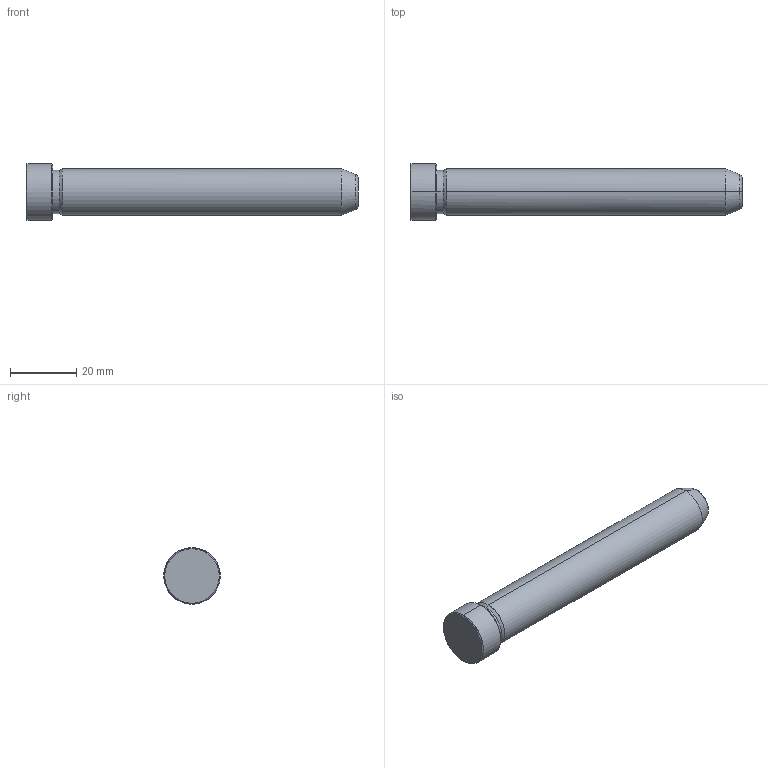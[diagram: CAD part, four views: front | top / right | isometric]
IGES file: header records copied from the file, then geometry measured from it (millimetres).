
Start section: START RECORD GO HERE.
Global section: file name: 549-14X100.igs; native system: DASSAULT SYSTEMES CATIA V5 R20 - www.3ds.com; preprocessor: CATIA Version 5 Release 20 ; author: Utente; organization: NB04-ASUS; date: 20211211.102652; units: millimetre
Bounding box: 100 x 17 x 17 mm (x, y, z)
Surface area: 4829.6 mm2 (no closed solid volume)
Topology: 0 solids, 0 shells, 19 faces, 112 edges, 112 vertices
Faces by surface type: revolution 16, plane 3
